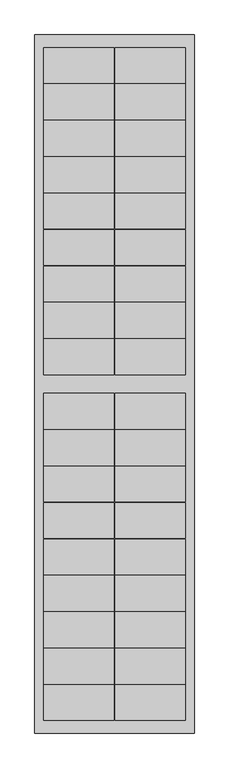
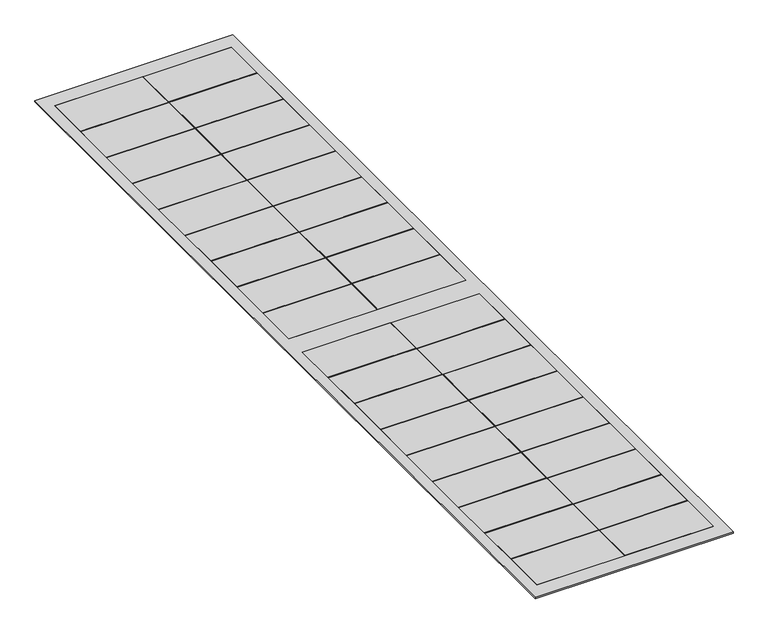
"""IFC4 building model written with IfcOpenShell, lengths in millimetres: proxy geometry, Construction-Roof_Roofit-Solar_velario-slim-t-2x18-180 : Velario Slim T-2x18/180."""

from ifc_helpers import new_model, si_unit, origin, origin_with_axes, place, context, project, spatial, polyline, outline, extrude, source, transform, mapped, element, save


def specialty_equipment_90d8c1e8(model_context):
    return source(origin(), model_context, "Body", "SweptSolid", [
        extrude(outline(polyline([(-1.0, 988.5), (-1.0, 883.5), (-209.2, 883.5), (-209.2, 988.5), (-1.0, 988.5)])), origin_with_axes(), (0.0, 0.0, 1.0), 3.2),
        extrude(outline(polyline([(209.2, 988.5), (209.2, 883.5), (1.0, 883.5), (1.0, 988.5), (209.2, 988.5)])), origin_with_axes(), (0.0, 0.0, 1.0), 3.2),
        extrude(outline(polyline([(-209.2, 776.5), (-209.2, 881.5), (-1.0, 881.5), (-1.0, 776.5), (-209.2, 776.5)])), origin_with_axes(), (0.0, 0.0, 1.0), 3.2),
        extrude(outline(polyline([(1.0, 776.5), (1.0, 881.5), (209.2, 881.5), (209.2, 776.5), (1.0, 776.5)])), origin_with_axes(), (0.0, 0.0, 1.0), 3.2),
        extrude(outline(polyline([(-209.2, 774.5), (-1.0, 774.5), (-1.0, 669.5), (-209.2, 669.5), (-209.2, 774.5)])), origin_with_axes(), (0.0, 0.0, 1.0), 3.2),
        extrude(outline(polyline([(209.2, 669.5), (1.0, 669.5), (1.0, 774.5), (209.2, 774.5), (209.2, 669.5)])), origin_with_axes(), (0.0, 0.0, 1.0), 3.2),
        extrude(outline(polyline([(209.2, 562.5), (1.0, 562.5), (1.0, 667.5), (209.2, 667.5), (209.2, 562.5)])), origin_with_axes(), (0.0, 0.0, 1.0), 3.2),
        extrude(outline(polyline([(-209.2, 667.5), (-1.0, 667.5), (-1.0, 562.5), (-209.2, 562.5), (-209.2, 667.5)])), origin_with_axes(), (0.0, 0.0, 1.0), 3.2),
        extrude(outline(polyline([(-209.2, 560.5), (-1.0, 560.5), (-1.0, 455.5), (-209.2, 455.5), (-209.2, 560.5)])), origin_with_axes(), (0.0, 0.0, 1.0), 3.2),
        extrude(outline(polyline([(209.2, 455.5), (1.0, 455.5), (1.0, 560.5), (209.2, 560.5), (209.2, 455.5)])), origin_with_axes(), (0.0, 0.0, 1.0), 3.2),
        extrude(outline(polyline([(209.2, 348.5), (1.0, 348.5), (1.0, 453.5), (209.2, 453.5), (209.2, 348.5)])), origin_with_axes(), (0.0, 0.0, 1.0), 3.2),
        extrude(outline(polyline([(-209.2, 453.5), (-1.0, 453.5), (-1.0, 348.5), (-209.2, 348.5), (-209.2, 453.5)])), origin_with_axes(), (0.0, 0.0, 1.0), 3.2),
        extrude(outline(polyline([(-209.2, 346.5), (-1.0, 346.5), (-1.0, 241.5), (-209.2, 241.5), (-209.2, 346.5)])), origin_with_axes(), (0.0, 0.0, 1.0), 3.2),
        extrude(outline(polyline([(209.2, 241.5), (1.0, 241.5), (1.0, 346.5), (209.2, 346.5), (209.2, 241.5)])), origin_with_axes(), (0.0, 0.0, 1.0), 3.2),
        extrude(outline(polyline([(209.2, 134.5), (1.0, 134.5), (1.0, 239.5), (209.2, 239.5), (209.2, 134.5)])), origin_with_axes(), (0.0, 0.0, 1.0), 3.2),
        extrude(outline(polyline([(-209.2, 239.5), (-1.0, 239.5), (-1.0, 134.5), (-209.2, 134.5), (-209.2, 239.5)])), origin_with_axes(), (0.0, 0.0, 1.0), 3.2),
        extrude(outline(polyline([(-209.2, 132.5), (-1.0, 132.5), (-1.0, 27.5), (-209.2, 27.5), (-209.2, 132.5)])), origin_with_axes(), (0.0, 0.0, 1.0), 3.2),
        extrude(outline(polyline([(209.2, 27.5), (1.0, 27.5), (1.0, 132.5), (209.2, 132.5), (209.2, 27.5)])), origin_with_axes(), (0.0, 0.0, 1.0), 3.2),
        extrude(outline(polyline([(-209.2, -27.5), (-1.0, -27.5), (-1.0, -132.5), (-209.2, -132.5), (-209.2, -27.5)])), origin_with_axes(), (0.0, 0.0, 1.0), 3.2),
        extrude(outline(polyline([(209.2, -132.5), (1.0, -132.5), (1.0, -27.5), (209.2, -27.5), (209.2, -132.5)])), origin_with_axes(), (0.0, 0.0, 1.0), 3.2),
        extrude(outline(polyline([(209.2, -239.5), (1.0, -239.5), (1.0, -134.5), (209.2, -134.5), (209.2, -239.5)])), origin_with_axes(), (0.0, 0.0, 1.0), 3.2),
        extrude(outline(polyline([(-209.2, -134.5), (-1.0, -134.5), (-1.0, -239.5), (-209.2, -239.5), (-209.2, -134.5)])), origin_with_axes(), (0.0, 0.0, 1.0), 3.2),
        extrude(outline(polyline([(-209.2, -241.5), (-1.0, -241.5), (-1.0, -346.5), (-209.2, -346.5), (-209.2, -241.5)])), origin_with_axes(), (0.0, 0.0, 1.0), 3.2),
        extrude(outline(polyline([(209.2, -346.5), (1.0, -346.5), (1.0, -241.5), (209.2, -241.5), (209.2, -346.5)])), origin_with_axes(), (0.0, 0.0, 1.0), 3.2),
        extrude(outline(polyline([(209.2, -453.5), (1.0, -453.5), (1.0, -348.5), (209.2, -348.5), (209.2, -453.5)])), origin_with_axes(), (0.0, 0.0, 1.0), 3.2),
        extrude(outline(polyline([(-209.2, -348.5), (-1.0, -348.5), (-1.0, -453.5), (-209.2, -453.5), (-209.2, -348.5)])), origin_with_axes(), (0.0, 0.0, 1.0), 3.2),
        extrude(outline(polyline([(-209.2, -455.5), (-1.0, -455.5), (-1.0, -560.5), (-209.2, -560.5), (-209.2, -455.5)])), origin_with_axes(), (0.0, 0.0, 1.0), 3.2),
        extrude(outline(polyline([(209.2, -560.5), (1.0, -560.5), (1.0, -455.5), (209.2, -455.5), (209.2, -560.5)])), origin_with_axes(), (0.0, 0.0, 1.0), 3.2),
        extrude(outline(polyline([(209.2, -667.5), (1.0, -667.5), (1.0, -562.5), (209.2, -562.5), (209.2, -667.5)])), origin_with_axes(), (0.0, 0.0, 1.0), 3.2),
        extrude(outline(polyline([(-209.2, -562.5), (-1.0, -562.5), (-1.0, -667.5), (-209.2, -667.5), (-209.2, -562.5)])), origin_with_axes(), (0.0, 0.0, 1.0), 3.2),
        extrude(outline(polyline([(-209.2, -669.5), (-1.0, -669.5), (-1.0, -774.5), (-209.2, -774.5), (-209.2, -669.5)])), origin_with_axes(), (0.0, 0.0, 1.0), 3.2),
        extrude(outline(polyline([(209.2, -774.5), (1.0, -774.5), (1.0, -669.5), (209.2, -669.5), (209.2, -774.5)])), origin_with_axes(), (0.0, 0.0, 1.0), 3.2),
        extrude(outline(polyline([(-209.2, -776.5), (-1.0, -776.5), (-1.0, -881.5), (-209.2, -881.5), (-209.2, -776.5)])), origin_with_axes(), (0.0, 0.0, 1.0), 3.2),
        extrude(outline(polyline([(209.2, -881.5), (1.0, -881.5), (1.0, -776.5), (209.2, -776.5), (209.2, -881.5)])), origin_with_axes(), (0.0, 0.0, 1.0), 3.2),
        extrude(outline(polyline([(209.2, -988.5), (1.0, -988.5), (1.0, -883.5), (209.2, -883.5), (209.2, -988.5)])), origin_with_axes(), (0.0, 0.0, 1.0), 3.2),
        extrude(outline(polyline([(-209.2, -883.5), (-1.0, -883.5), (-1.0, -988.5), (-209.2, -988.5), (-209.2, -883.5)])), origin_with_axes(), (0.0, 0.0, 1.0), 3.2),
        extrude(outline(polyline([(234.5, 1025.5), (234.5, -1025.5), (-234.5, -1025.5), (-234.5, 1025.5), (234.5, 1025.5)]), holes=[polyline([(1.0, 883.5), (209.2, 883.5), (209.2, 988.5), (1.0, 988.5), (1.0, 883.5)]), polyline([(-1.0, 988.5), (-209.2, 988.5), (-209.2, 883.5), (-1.0, 883.5), (-1.0, 988.5)]), polyline([(1.0, 776.5), (209.2, 776.5), (209.2, 881.5), (1.0, 881.5), (1.0, 776.5)]), polyline([(-1.0, 881.5), (-209.2, 881.5), (-209.2, 776.5), (-1.0, 776.5), (-1.0, 881.5)]), polyline([(1.0, 669.5), (209.2, 669.5), (209.2, 774.5), (1.0, 774.5), (1.0, 669.5)]), polyline([(-1.0, 774.5), (-209.2, 774.5), (-209.2, 669.5), (-1.0, 669.5), (-1.0, 774.5)]), polyline([(1.0, 562.5), (209.2, 562.5), (209.2, 667.5), (1.0, 667.5), (1.0, 562.5)]), polyline([(-1.0, 667.5), (-209.2, 667.5), (-209.2, 562.5), (-1.0, 562.5), (-1.0, 667.5)]), polyline([(1.0, 455.5), (209.2, 455.5), (209.2, 560.5), (1.0, 560.5), (1.0, 455.5)]), polyline([(-1.0, 560.5), (-209.2, 560.5), (-209.2, 455.5), (-1.0, 455.5), (-1.0, 560.5)]), polyline([(1.0, 348.5), (209.2, 348.5), (209.2, 453.5), (1.0, 453.5), (1.0, 348.5)]), polyline([(-1.0, 453.5), (-209.2, 453.5), (-209.2, 348.5), (-1.0, 348.5), (-1.0, 453.5)]), polyline([(1.0, 241.5), (209.2, 241.5), (209.2, 346.5), (1.0, 346.5), (1.0, 241.5)]), polyline([(-1.0, 346.5), (-209.2, 346.5), (-209.2, 241.5), (-1.0, 241.5), (-1.0, 346.5)]), polyline([(1.0, 134.5), (209.2, 134.5), (209.2, 239.5), (1.0, 239.5), (1.0, 134.5)]), polyline([(-1.0, 239.5), (-209.2, 239.5), (-209.2, 134.5), (-1.0, 134.5), (-1.0, 239.5)]), polyline([(1.0, 27.5), (209.2, 27.5), (209.2, 132.5), (1.0, 132.5), (1.0, 27.5)]), polyline([(-1.0, 132.5), (-209.2, 132.5), (-209.2, 27.5), (-1.0, 27.5), (-1.0, 132.5)]), polyline([(1.0, -132.5), (209.2, -132.5), (209.2, -27.5), (1.0, -27.5), (1.0, -132.5)]), polyline([(-1.0, -27.5), (-209.2, -27.5), (-209.2, -132.5), (-1.0, -132.5), (-1.0, -27.5)]), polyline([(1.0, -239.5), (209.2, -239.5), (209.2, -134.5), (1.0, -134.5), (1.0, -239.5)]), polyline([(-1.0, -134.5), (-209.2, -134.5), (-209.2, -239.5), (-1.0, -239.5), (-1.0, -134.5)]), polyline([(1.0, -346.5), (209.2, -346.5), (209.2, -241.5), (1.0, -241.5), (1.0, -346.5)]), polyline([(-1.0, -241.5), (-209.2, -241.5), (-209.2, -346.5), (-1.0, -346.5), (-1.0, -241.5)]), polyline([(1.0, -453.5), (209.2, -453.5), (209.2, -348.5), (1.0, -348.5), (1.0, -453.5)]), polyline([(-1.0, -348.5), (-209.2, -348.5), (-209.2, -453.5), (-1.0, -453.5), (-1.0, -348.5)]), polyline([(1.0, -560.5), (209.2, -560.5), (209.2, -455.5), (1.0, -455.5), (1.0, -560.5)]), polyline([(-1.0, -455.5), (-209.2, -455.5), (-209.2, -560.5), (-1.0, -560.5), (-1.0, -455.5)]), polyline([(1.0, -667.5), (209.2, -667.5), (209.2, -562.5), (1.0, -562.5), (1.0, -667.5)]), polyline([(-1.0, -562.5), (-209.2, -562.5), (-209.2, -667.5), (-1.0, -667.5), (-1.0, -562.5)]), polyline([(1.0, -774.5), (209.2, -774.5), (209.2, -669.5), (1.0, -669.5), (1.0, -774.5)]), polyline([(-1.0, -669.5), (-209.2, -669.5), (-209.2, -774.5), (-1.0, -774.5), (-1.0, -669.5)]), polyline([(1.0, -881.5), (209.2, -881.5), (209.2, -776.5), (1.0, -776.5), (1.0, -881.5)]), polyline([(-1.0, -776.5), (-209.2, -776.5), (-209.2, -881.5), (-1.0, -881.5), (-1.0, -776.5)]), polyline([(1.0, -988.5), (209.2, -988.5), (209.2, -883.5), (1.0, -883.5), (1.0, -988.5)]), polyline([(-1.0, -883.5), (-209.2, -883.5), (-209.2, -988.5), (-1.0, -988.5), (-1.0, -883.5)])]), origin_with_axes(), (0.0, 0.0, 1.0), 3.2),
    ])


if __name__ == "__main__":
    model = new_model("IFC4")
    model_context = context("Model", 3, world=origin())
    ifc_project = project(units=[si_unit("LENGTHUNIT", "METRE", prefix="MILLI")], contexts=[model_context])
    site = spatial("IfcSite", under=ifc_project)
    building = spatial("IfcBuilding", under=site)
    placement = place(None, origin())
    specialty_equipment_shape = specialty_equipment_90d8c1e8(model_context)
    element("IfcBuildingElementProxy", 1, Name="Construction-Roof_Roofit-Solar_velario-slim-t-2x18-180 : Velario Slim T-2x18/180", ObjectType="Construction-Roof_Roofit-Solar_velario-slim-t-2x18-180 : Velario Slim T-2x18/180", at=placement, inside=building, context=model_context, shape_type="MappedRepresentation", body=[
        mapped(specialty_equipment_shape, transform((0.0, 0.0, 0.0), x_axis=(1.0, 0.0, 0.0), y_axis=(0.0, 1.0, 0.0), z_axis=(0.0, 0.0, 1.0))),
    ])
    save(model, "model.ifc")
